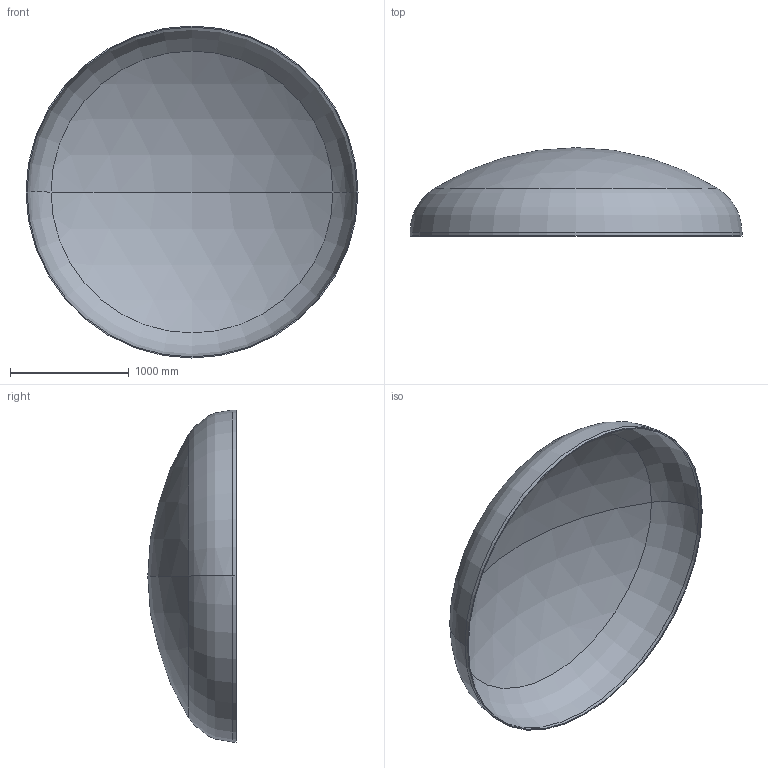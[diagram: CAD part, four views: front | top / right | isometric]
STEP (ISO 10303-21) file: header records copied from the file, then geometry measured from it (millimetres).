
FILE_DESCRIPTION (( 'STEP AP203' ), '1' );
FILE_NAME ('DIN 28013 Korbbogenform_-_Boden DIN 28013 - 2800 x 30 - I - s=9.step', '2016-07-01T16:40:40', ( '' ), ( '' ), 'SwSTEP 2.0', 'SolidWorks 2013', '' );
FILE_SCHEMA (( 'CONFIG_CONTROL_DESIGN' ));
Length unit declared in the file: millimetre
Products named in the file (1): DIN 28013 Korbbogenform_-_Boden DIN 28013 - 2800 x 30 - I - s=9
Bounding box: 2800 x 745.19 x 2800 mm (x, y, z)
Volume: 78758348.4 mm3; surface area: 17580931.4 mm2
Topology: 1 solids, 1 shells, 13 faces, 24 edges, 14 vertices
Faces by surface type: torus 4, cylinder 4, sphere 4, plane 1
Entity records: 407 total; most frequent: DIRECTION 72, CARTESIAN_POINT 52, ORIENTED_EDGE 48, AXIS2_PLACEMENT_3D 34, EDGE_CURVE 24, CIRCLE 20, VERTEX_POINT 14, EDGE_LOOP 14
